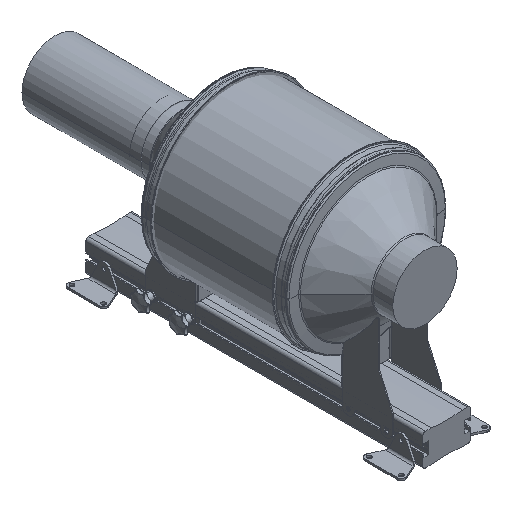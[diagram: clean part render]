
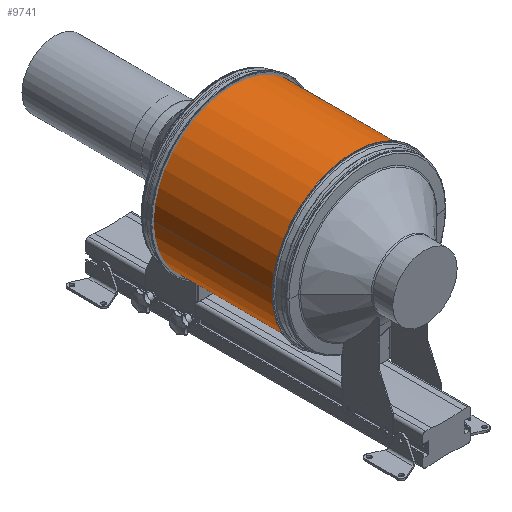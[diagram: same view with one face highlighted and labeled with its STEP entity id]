
A CAD part, isometric view. The second image highlights one B-rep face of the part: STEP entity #9741.
In plain terms, the highlighted cylindrical face has radius 199 mm (diameter 398 mm), a partial arc.
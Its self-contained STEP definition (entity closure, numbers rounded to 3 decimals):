
#9440=DIRECTION('',(0.,-1.,0.));
#9441=VECTOR('',#9440,350.);
#9442=CARTESIAN_POINT('',(199.,175.,0.));
#9443=LINE('',#9442,#9441);
#9453=CARTESIAN_POINT('',(0.,-175.,0.));
#9454=DIRECTION('',(0.,-1.,0.));
#9455=DIRECTION('',(1.,0.,0.));
#9456=AXIS2_PLACEMENT_3D('',#9453,#9454,#9455);
#9494=CARTESIAN_POINT('',(0.,175.,0.));
#9495=DIRECTION('',(0.,-1.,0.));
#9496=DIRECTION('',(1.,0.,0.));
#9497=AXIS2_PLACEMENT_3D('',#9494,#9495,#9496);
#9499=DIRECTION('',(0.,-1.,0.));
#9500=VECTOR('',#9499,350.);
#9501=CARTESIAN_POINT('',(198.992,175.,-1.737));
#9502=LINE('',#9501,#9500);
#9595=CARTESIAN_POINT('',(199.,175.,0.));
#9596=CARTESIAN_POINT('',(199.,-175.,0.));
#9597=VERTEX_POINT('',#9595);
#9598=VERTEX_POINT('',#9596);
#9599=CARTESIAN_POINT('',(198.992,175.,-1.737));
#9600=VERTEX_POINT('',#9599);
#9601=CARTESIAN_POINT('',(198.992,-175.,-1.737));
#9602=VERTEX_POINT('',#9601);
#9729=CARTESIAN_POINT('',(0.,-192.5,0.));
#9730=DIRECTION('',(0.,1.,0.));
#9731=DIRECTION('',(1.,0.,0.));
#9732=AXIS2_PLACEMENT_3D('',#9729,#9730,#9731);
#9733=CYLINDRICAL_SURFACE('',#9732,199.);
#9735=ORIENTED_EDGE('',*,*,#9734,.F.);
#9736=ORIENTED_EDGE('',*,*,#9723,.F.);
#9737=ORIENTED_EDGE('',*,*,#9651,.T.);
#9738=ORIENTED_EDGE('',*,*,#9666,.T.);
#9739=EDGE_LOOP('',(#9735,#9736,#9737,#9738));
#9740=FACE_OUTER_BOUND('',#9739,.F.);
#9457=CIRCLE('',#9456,199.);
#9498=CIRCLE('',#9497,199.);
#9651=EDGE_CURVE('',#9597,#9598,#9443,.T.);
#9666=EDGE_CURVE('',#9598,#9602,#9457,.T.);
#9723=EDGE_CURVE('',#9597,#9600,#9498,.T.);
#9734=EDGE_CURVE('',#9600,#9602,#9502,.T.);
#9741=ADVANCED_FACE('',(#9740),#9733,.T.);
